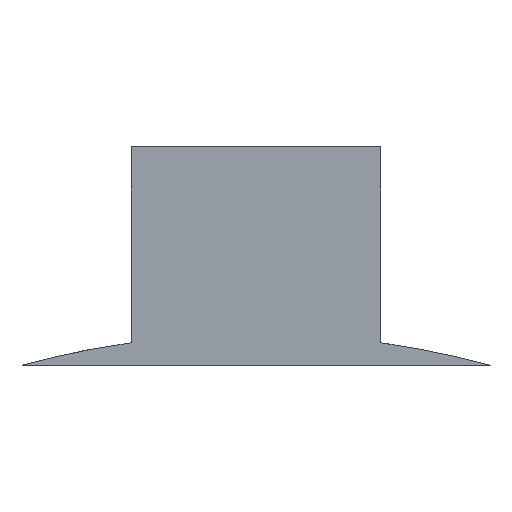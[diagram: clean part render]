
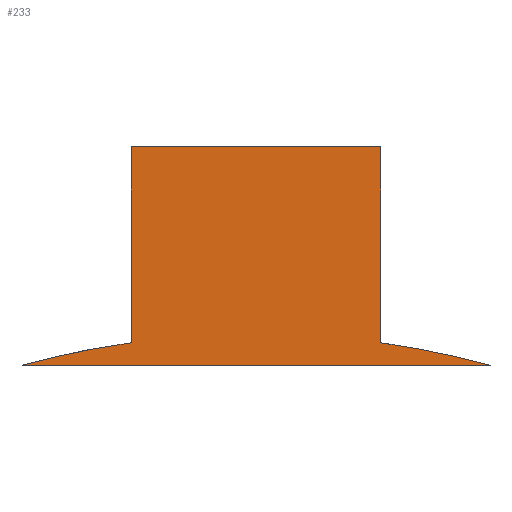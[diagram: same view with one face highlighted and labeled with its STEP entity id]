
A CAD part, left-side view. The second image highlights one B-rep face of the part: STEP entity #233.
In plain terms, the highlighted planar face has unit normal (-1, 0, 0).
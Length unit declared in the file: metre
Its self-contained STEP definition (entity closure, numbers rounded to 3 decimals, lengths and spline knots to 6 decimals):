
#15=CIRCLE('',#249,0.00285);
#17=CIRCLE('',#253,0.00285);
#54=ORIENTED_EDGE('',*,*,#114,.F.);
#55=ORIENTED_EDGE('',*,*,#99,.F.);
#56=ORIENTED_EDGE('',*,*,#115,.F.);
#57=ORIENTED_EDGE('',*,*,#116,.F.);
#58=ORIENTED_EDGE('',*,*,#108,.F.);
#59=ORIENTED_EDGE('',*,*,#106,.F.);
#99=EDGE_CURVE('',#131,#132,#15,.F.);
#106=EDGE_CURVE('',#136,#137,#17,.T.);
#108=EDGE_CURVE('',#137,#138,#157,.T.);
#114=EDGE_CURVE('',#132,#136,#161,.T.);
#115=EDGE_CURVE('',#143,#131,#162,.F.);
#116=EDGE_CURVE('',#138,#143,#163,.T.);
#131=VERTEX_POINT('',#348);
#132=VERTEX_POINT('',#350);
#136=VERTEX_POINT('',#368);
#137=VERTEX_POINT('',#370);
#138=VERTEX_POINT('',#374);
#143=VERTEX_POINT('',#387);
#157=LINE('',#373,#180);
#161=LINE('',#385,#184);
#162=LINE('',#386,#185);
#163=LINE('',#388,#186);
#180=VECTOR('',#296,1.);
#184=VECTOR('',#306,1.);
#185=VECTOR('',#307,1.);
#186=VECTOR('',#308,1.);
#199=EDGE_LOOP('',(#54,#55,#56,#57,#58,#59));
#212=FACE_BOUND('',#199,.T.);
#222=PLANE('',#257);
#233=ADVANCED_FACE('',(#212),#222,.F.);
#249=AXIS2_PLACEMENT_3D('',#349,#280,#281);
#253=AXIS2_PLACEMENT_3D('',#369,#291,#292);
#257=AXIS2_PLACEMENT_3D('',#384,#304,#305);
#280=DIRECTION('',(-1.,0.,0.));
#281=DIRECTION('',(0.,-1.,0.));
#291=DIRECTION('',(1.,0.,0.));
#292=DIRECTION('',(0.,1.,0.));
#296=DIRECTION('',(0.,0.,1.));
#304=DIRECTION('',(1.,0.,0.));
#305=DIRECTION('',(0.,1.,0.));
#306=DIRECTION('',(0.,1.,0.));
#307=DIRECTION('',(0.,0.,1.));
#308=DIRECTION('',(0.,-1.,0.));
#348=CARTESIAN_POINT('',(0.005848,-0.00505,-0.028328));
#349=CARTESIAN_POINT('',(0.005848,-0.004651,-0.03115));
#350=CARTESIAN_POINT('',(0.005848,-0.0054,-0.0284));
#368=CARTESIAN_POINT('',(0.005848,-0.0039,-0.0284));
#369=CARTESIAN_POINT('',(0.005848,-0.004648,-0.03115));
#370=CARTESIAN_POINT('',(0.005848,-0.00425,-0.028328));
#373=CARTESIAN_POINT('',(0.005848,-0.00425,-0.0284));
#374=CARTESIAN_POINT('',(0.005848,-0.00425,-0.0277));
#384=CARTESIAN_POINT('',(0.005848,-0.00555,-0.0284));
#385=CARTESIAN_POINT('',(0.005848,-0.0054,-0.0284));
#386=CARTESIAN_POINT('',(0.005848,-0.00505,-0.0284));
#387=CARTESIAN_POINT('',(0.005848,-0.00505,-0.0277));
#388=CARTESIAN_POINT('',(0.005848,-0.00425,-0.0277));
